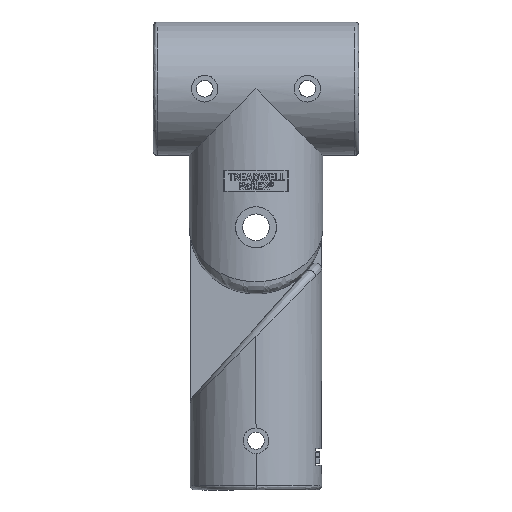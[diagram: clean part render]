
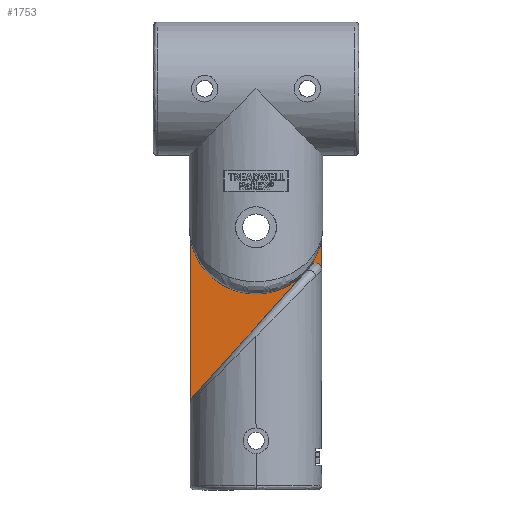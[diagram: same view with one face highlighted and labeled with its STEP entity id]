
A CAD part, left-side view. The second image highlights one B-rep face of the part: STEP entity #1753.
In plain terms, the highlighted planar face has unit normal (-1, 0, 0) as drawn and (0, 0, 1) by its records, which use the part's own axes.
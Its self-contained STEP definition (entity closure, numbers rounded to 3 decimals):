
#396 = VERTEX_POINT ( 'NONE', #1701 ) ;
#684 = AXIS2_PLACEMENT_3D ( 'NONE', #23988, #10842, #12911 ) ;
#1151 = AXIS2_PLACEMENT_3D ( 'NONE', #17864, #11628, #7340 ) ;
#1701 = CARTESIAN_POINT ( 'NONE',  ( 32., 128., 0. ) ) ;
#1753 = ADVANCED_FACE ( 'NONE', ( #2218, #23110 ), #4167, .T. ) ;
#1765 = LINE ( 'NONE', #26425, #12921 ) ;
#2086 = CARTESIAN_POINT ( 'NONE',  ( 0., 128., 0. ) ) ;
#2132 = EDGE_CURVE ( 'NONE', #2578, #7677, #4177, .T. ) ;
#2218 = FACE_OUTER_BOUND ( 'NONE', #2720, .T. ) ;
#2578 = VERTEX_POINT ( 'NONE', #21191 ) ;
#2720 = EDGE_LOOP ( 'NONE', ( #15753, #13728, #26460, #24795, #6726, #23350, #10958 ) ) ;
#3031 = EDGE_CURVE ( 'NONE', #14238, #9820, #21010, .T. ) ;
#3539 = CARTESIAN_POINT ( 'NONE',  ( -31.229, 44.746, 0. ) ) ;
#3622 = ORIENTED_EDGE ( 'NONE', *, *, #12828, .T. ) ;
#3847 = CIRCLE ( 'NONE', #1151, 6.5 ) ;
#4167 = PLANE ( 'NONE',  #8201 ) ;
#4177 =( BOUNDED_CURVE ( )  B_SPLINE_CURVE ( 2, ( #9079, #25848, #13354 ),
 .UNSPECIFIED., .F., .F. ) 
 B_SPLINE_CURVE_WITH_KNOTS ( ( 3, 3 ),
 ( 0., 0.002 ),
 .UNSPECIFIED. ) 
 CURVE ( )  GEOMETRIC_REPRESENTATION_ITEM ( )  RATIONAL_B_SPLINE_CURVE ( ( 1., 0.934, 1. ) ) 
 REPRESENTATION_ITEM ( '' )  );
#4590 = CARTESIAN_POINT ( 'NONE',  ( 24.152, 106.253, 0. ) ) ;
#4688 = CARTESIAN_POINT ( 'NONE',  ( 32., 107.524, 0. ) ) ;
#4992 = CARTESIAN_POINT ( 'NONE',  ( 32., 160., 0. ) ) ;
#6111 = EDGE_CURVE ( 'Edge7', #15716, #2578, #1765, .T. ) ;
#6521 = DIRECTION ( 'NONE',  ( 1., 0., 0. ) ) ;
#6726 = ORIENTED_EDGE ( 'NONE', *, *, #13229, .T. ) ;
#6751 = DIRECTION ( 'NONE',  ( 1., 0., 0. ) ) ;
#6937 = CIRCLE ( 'NONE', #22859, 32. ) ;
#7293 = CARTESIAN_POINT ( 'NONE',  ( 0., 128., 0. ) ) ;
#7340 = DIRECTION ( 'NONE',  ( 1., 0., 0. ) ) ;
#7423 = DIRECTION ( 'NONE',  ( 0., -1., 0. ) ) ;
#7606 = CARTESIAN_POINT ( 'NONE',  ( -31.229, 44.746, 0. ) ) ;
#7677 = VERTEX_POINT ( 'NONE', #7606 ) ;
#8185 = EDGE_CURVE ( 'Edge25', #15682, #20508, #3847, .T. ) ;
#8201 = AXIS2_PLACEMENT_3D ( 'NONE', #2086, #8440, #25342 ) ;
#8440 = DIRECTION ( 'NONE',  ( 0., 0., 1. ) ) ;
#9079 = CARTESIAN_POINT ( 'NONE',  ( -32., 42.738, 0. ) ) ;
#9137 = EDGE_LOOP ( 'NONE', ( #3622, #26106 ) ) ;
#9690 = LINE ( 'NONE', #4992, #21188 ) ;
#9812 =( BOUNDED_CURVE ( )  B_SPLINE_CURVE ( 2, ( #4688, #13111, #21564 ),
 .UNSPECIFIED., .F., .T. ) 
 B_SPLINE_CURVE_WITH_KNOTS ( ( 3, 3 ),
 ( 0., 0.008 ),
 .UNSPECIFIED. ) 
 CURVE ( )  GEOMETRIC_REPRESENTATION_ITEM ( )  RATIONAL_B_SPLINE_CURVE ( ( 1., 0.303, 1. ) ) 
 REPRESENTATION_ITEM ( '' )  );
#9820 = VERTEX_POINT ( 'NONE', #11122 ) ;
#10842 = DIRECTION ( 'NONE',  ( 0., 0., 1. ) ) ;
#10948 = CARTESIAN_POINT ( 'NONE',  ( 0., 128., 0. ) ) ;
#10958 = ORIENTED_EDGE ( 'NONE', *, *, #11919, .F. ) ;
#11122 = CARTESIAN_POINT ( 'NONE',  ( 26.549, 109.255, 0. ) ) ;
#11254 = VECTOR ( 'NONE', #11678, 1000. ) ;
#11628 = DIRECTION ( 'NONE',  ( 0., 0., -1. ) ) ;
#11678 = DIRECTION ( 'NONE',  ( 0.669, 0.743, 0. ) ) ;
#11919 = EDGE_CURVE ( 'NONE', #21728, #9820, #9812, .T. ) ;
#12828 = EDGE_CURVE ( 'Edge25', #20508, #15682, #23663, .T. ) ;
#12911 = DIRECTION ( 'NONE',  ( -1., 0., 0. ) ) ;
#12921 = VECTOR ( 'NONE', #7423, 1000. ) ;
#13111 = CARTESIAN_POINT ( 'NONE',  ( 32., 116.975, 0. ) ) ;
#13229 = EDGE_CURVE ( 'NONE', #7677, #14238, #22342, .T. ) ;
#13354 = CARTESIAN_POINT ( 'NONE',  ( -31.229, 44.746, 0. ) ) ;
#13416 = DIRECTION ( 'NONE',  ( 0., -1., 0. ) ) ;
#13728 = ORIENTED_EDGE ( 'NONE', *, *, #17144, .T. ) ;
#14238 = VERTEX_POINT ( 'NONE', #4590 ) ;
#15373 = DIRECTION ( 'NONE',  ( 0., 0., -1. ) ) ;
#15682 = VERTEX_POINT ( 'NONE', #15874 ) ;
#15716 = VERTEX_POINT ( 'NONE', #17816 ) ;
#15753 = ORIENTED_EDGE ( 'NONE', *, *, #24591, .F. ) ;
#15874 = CARTESIAN_POINT ( 'NONE',  ( -6.5, 128., 0. ) ) ;
#16897 = CARTESIAN_POINT ( 'NONE',  ( 32., 107.524, 0. ) ) ;
#17144 = EDGE_CURVE ( 'Edge23', #396, #15716, #6937, .T. ) ;
#17607 = CARTESIAN_POINT ( 'NONE',  ( 6.5, 128., 0. ) ) ;
#17816 = CARTESIAN_POINT ( 'NONE',  ( -32., 128., 0. ) ) ;
#17864 = CARTESIAN_POINT ( 'NONE',  ( 0., 128., 0. ) ) ;
#20508 = VERTEX_POINT ( 'NONE', #17607 ) ;
#21009 = AXIS2_PLACEMENT_3D ( 'NONE', #10948, #15373, #6521 ) ;
#21010 = CIRCLE ( 'NONE', #684, 32.5 ) ;
#21188 = VECTOR ( 'NONE', #13416, 1000. ) ;
#21191 = CARTESIAN_POINT ( 'NONE',  ( -32., 42.738, 0. ) ) ;
#21564 = CARTESIAN_POINT ( 'NONE',  ( 26.549, 109.255, 0. ) ) ;
#21728 = VERTEX_POINT ( 'NONE', #16897 ) ;
#22342 = LINE ( 'NONE', #3539, #11254 ) ;
#22859 = AXIS2_PLACEMENT_3D ( 'NONE', #7293, #26294, #6751 ) ;
#23110 = FACE_BOUND ( 'NONE', #9137, .T. ) ;
#23350 = ORIENTED_EDGE ( 'NONE', *, *, #3031, .T. ) ;
#23663 = CIRCLE ( 'NONE', #21009, 6.5 ) ;
#23988 = CARTESIAN_POINT ( 'NONE',  ( 0., 128., 0. ) ) ;
#24591 = EDGE_CURVE ( 'Edge24', #396, #21728, #9690, .T. ) ;
#24795 = ORIENTED_EDGE ( 'NONE', *, *, #2132, .T. ) ;
#25342 = DIRECTION ( 'NONE',  ( 1., 0., 0. ) ) ;
#25848 = CARTESIAN_POINT ( 'NONE',  ( -32., 43.89, 0. ) ) ;
#26106 = ORIENTED_EDGE ( 'NONE', *, *, #8185, .T. ) ;
#26294 = DIRECTION ( 'NONE',  ( 0., 0., 1. ) ) ;
#26425 = CARTESIAN_POINT ( 'NONE',  ( -32., 128., 0. ) ) ;
#26460 = ORIENTED_EDGE ( 'NONE', *, *, #6111, .T. ) ;
